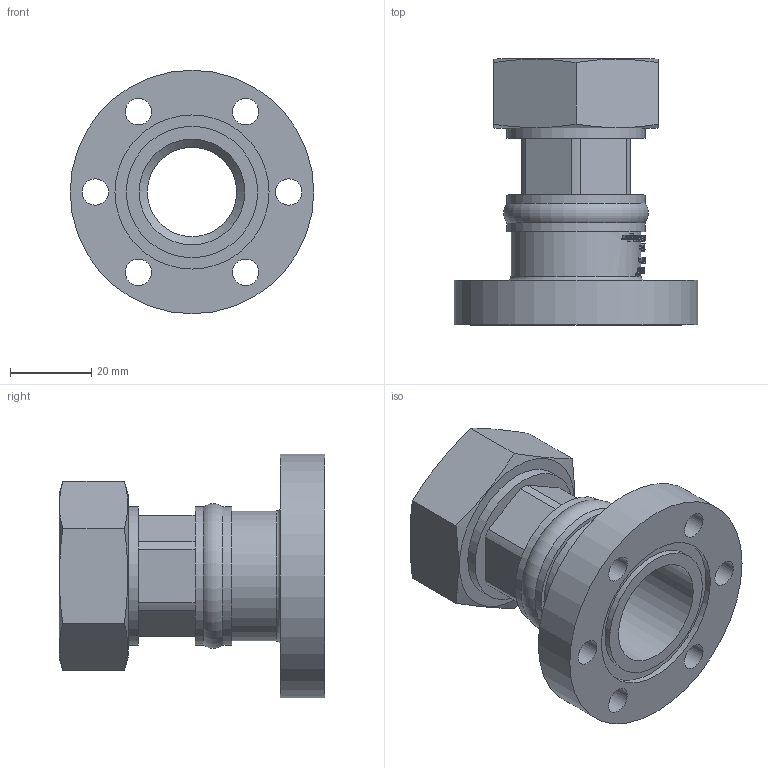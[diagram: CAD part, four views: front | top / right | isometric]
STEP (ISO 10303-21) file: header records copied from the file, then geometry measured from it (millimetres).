
FILE_DESCRIPTION(/* description */ (''),/* implementation_level */ '2;1');
FILE_NAME(/* name */ 'C:\Users\husser\Desktop\GA-DO-CDH_AG-Kunde.stp',/* time_stamp */ '2024-08-01T08:21:19+02:00',/* author */ ('Husser'),/* organization */ (''),/* preprocessor_version */ 'ST-DEVELOPER v18.1',/* originating_system */ 'Autodesk Inventor 2021',/* authorisation */ '');
FILE_SCHEMA (('AUTOMOTIVE_DESIGN { 1 0 10303 214 3 1 1 }'));
Length unit declared in the file: millimetre
Products named in the file (1): GA-DO-CDH_AG-Kunde
Bounding box: 60 x 65.5 x 60 mm (x, y, z)
Volume: 45851.8 mm3; surface area: 22772.7 mm2
Topology: 1 solids, 1 shells, 781 faces, 2130 edges, 1419 vertices
Faces by surface type: bspline 387, plane 306, cylinder 82, cone 4, torus 2
Full cylindrical faces by diameter (mm): 6.5 x6, 22 x1, 26 x1, 32 x1, 32.35 x1, 34 x3, 34.1 x1, 36.4 x1, 36.6 x1, 37.95 x1, 60 x1
Entity records: 32701 total; most frequent: CARTESIAN_POINT 15197, ORIENTED_EDGE 4260, DIRECTION 2453, EDGE_CURVE 2130, VERTEX_POINT 1419, LINE 1025, VECTOR 1025, EDGE_LOOP 863
